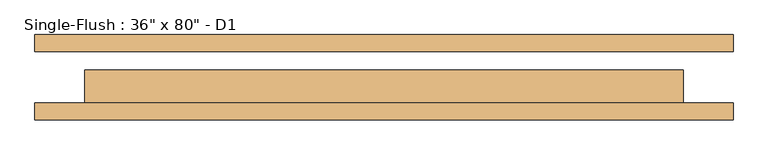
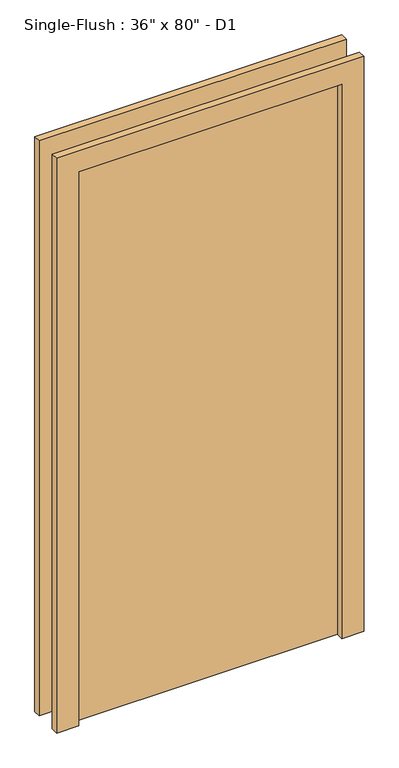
"""IFC4 building model written with IfcOpenShell, lengths in millimetres: door geometry."""

from ifc_helpers import new_model, si_unit, frame, origin, origin_with_axes, place, context, project, spatial, polyline, outline, extrude, source, transform, mapped, element, save


def door_e28fd1ca(model_context):
    return source(origin(), model_context, "Body", "SweptSolid", [
        extrude(outline(polyline([(2108.2, -533.4), (0.0, -533.4), (0.0, -457.2), (2032.0, -457.2), (2032.0, 457.2), (0.0, 457.2), (0.0, 533.4), (2108.2, 533.4), (2108.2, -533.4)])), frame((0.0, -65.0875, 0.0), z_axis=(0.0, 1.0, 0.0), x_axis=(0.0, 0.0, 1.0)), (0.0, 0.0, 1.0), 25.4),
        extrude(outline(polyline([(2108.2, 533.4), (2108.2, -533.4), (0.0, -533.4), (0.0, -457.2), (2032.0, -457.2), (2032.0, 457.2), (0.0, 457.2), (0.0, 533.4), (2108.2, 533.4)])), frame((0.0, 39.6875, 0.0), z_axis=(0.0, 1.0, 0.0), x_axis=(0.0, 0.0, 1.0)), (0.0, 0.0, 1.0), 25.4),
        extrude(outline(polyline([(457.2, 11.1125), (457.2, -39.6875), (-457.2, -39.6875), (-457.2, 11.1125), (457.2, 11.1125)])), origin_with_axes(), (0.0, 0.0, 1.0), 2032.0),
    ])


if __name__ == "__main__":
    model = new_model("IFC4")
    model_context = context("Model", 3, world=origin())
    ifc_project = project(units=[si_unit("LENGTHUNIT", "METRE", prefix="MILLI")], contexts=[model_context])
    site = spatial("IfcSite", under=ifc_project)
    building = spatial("IfcBuilding", under=site)
    placement = place(None, origin())
    door_shape = door_e28fd1ca(model_context)
    element("IfcDoor", 1, ObjectType="Single-Flush : 36\" x 80\" - D1", at=placement, inside=building, context=model_context, shape_type="MappedRepresentation", body=[
        mapped(door_shape, transform((0.0, 0.0, 0.0), x_axis=(1.0, 0.0, 0.0), y_axis=(0.0, 1.0, 0.0), z_axis=(0.0, 0.0, 1.0))),
    ])
    save(model, "model.ifc")
